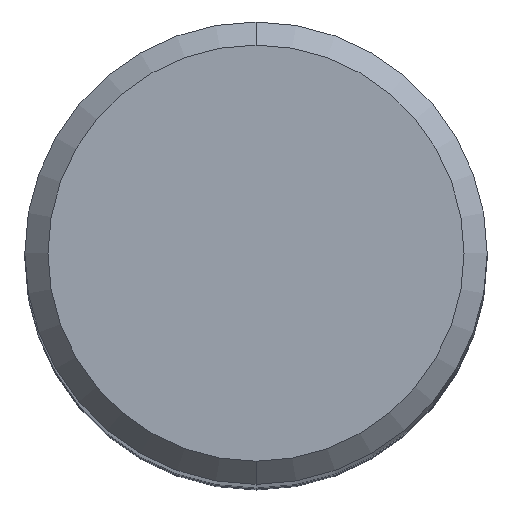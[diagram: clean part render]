
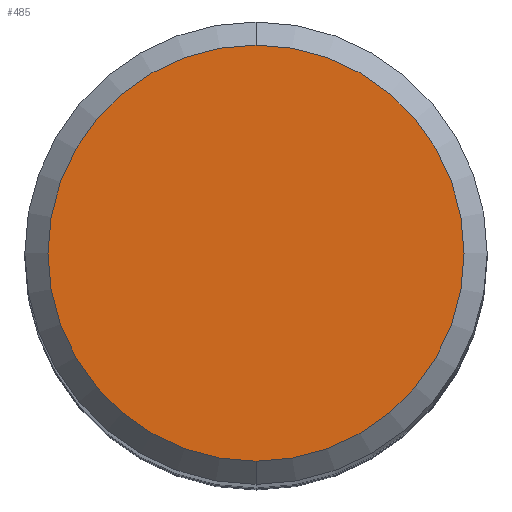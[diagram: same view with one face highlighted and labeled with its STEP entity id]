
A CAD part, top view. The second image highlights one B-rep face of the part: STEP entity #485.
In plain terms, the highlighted planar face has unit normal (0, 0, 1).
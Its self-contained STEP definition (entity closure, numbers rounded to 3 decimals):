
#317=VERTEX_POINT('',#716);
#361=EDGE_CURVE('',#317,#413,#769,.T.);
#391=EDGE_CURVE('',#413,#317,#802,.T.);
#413=VERTEX_POINT('',#827);
#485=ADVANCED_FACE('',(#906),#907,.T.);
#716=CARTESIAN_POINT('',(0.0,7.2,0.0));
#769=CIRCLE('',#1249,7.2);
#802=CIRCLE('',#1317,7.2);
#827=CARTESIAN_POINT('',(0.,-7.2,0.0));
#906=FACE_OUTER_BOUND('',#1566,.T.);
#907=PLANE('',#1567);
#1249=AXIS2_PLACEMENT_3D('',#2057,#2058,#2059);
#1317=AXIS2_PLACEMENT_3D('',#2082,#2083,#2084);
#1566=EDGE_LOOP('',(#2217,#2218));
#1567=AXIS2_PLACEMENT_3D('',#2219,#2220,#2221);
#2057=CARTESIAN_POINT('',(0.0,0.0,0.0));
#2058=DIRECTION('',(0.0,0.0,-1.0));
#2059=DIRECTION('',(0.0,1.0,0.0));
#2082=CARTESIAN_POINT('',(0.0,0.0,0.0));
#2083=DIRECTION('',(0.0,0.0,-1.0));
#2084=DIRECTION('',(0.0,1.0,0.0));
#2217=ORIENTED_EDGE('',*,*,#361,.F.);
#2218=ORIENTED_EDGE('',*,*,#391,.F.);
#2219=CARTESIAN_POINT('',(0.0,3.6,0.0));
#2220=DIRECTION('',(-0.0,0.0,1.0));
#2221=DIRECTION('',(0.0,-1.0,0.0));
